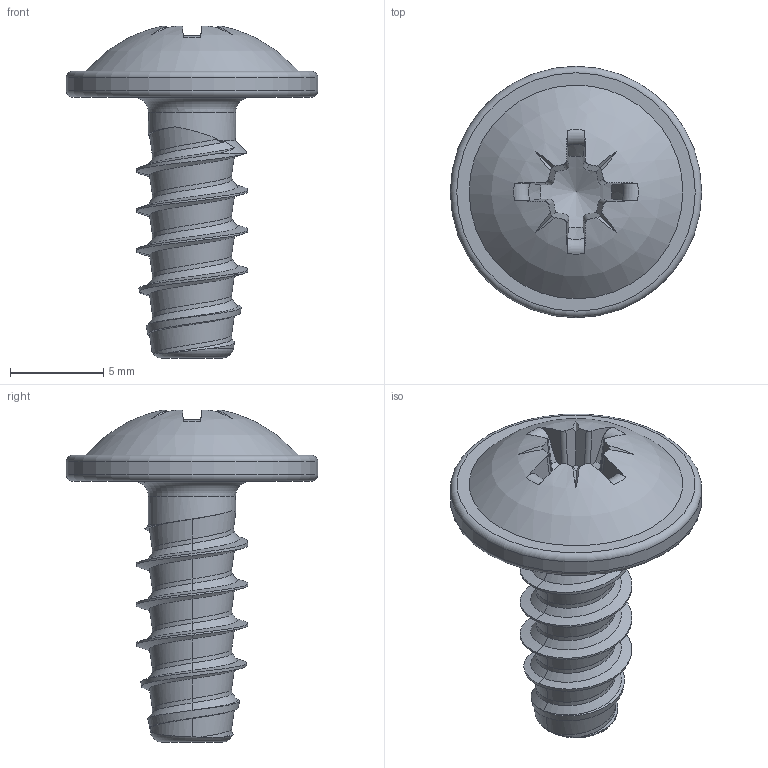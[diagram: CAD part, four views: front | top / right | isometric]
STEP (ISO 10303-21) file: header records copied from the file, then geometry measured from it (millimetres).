
FILE_DESCRIPTION(/* description */ (''),/* implementation_level */ '2;1');
FILE_NAME(/* name */ 'KN6031-STSplus-60x14-Z3.step',/* time_stamp */ '2017-10-09T17:05:01+02:00',/* author */ (''),/* organization */ (''),/* preprocessor_version */ 'ST-DEVELOPER v16',/* originating_system */ 'SIEMENS PLM Software NX 10.0',/* authorisation */ '');
FILE_SCHEMA (('AUTOMOTIVE_DESIGN { 1 0 10303 214 3 1 1 1 }'));
Length unit declared in the file: millimetre
Products named in the file (1): KN6031-STSplus-60x14-Z3
Bounding box: 13.5 x 13.5 x 17.83 mm (x, y, z)
Volume: 553 mm3; surface area: 653.6 mm2
Topology: 1 solids, 1 shells, 86 faces, 222 edges, 139 vertices
Faces by surface type: bspline 32, plane 27, cylinder 11, torus 8, cone 7, sphere 1
Full cylindrical faces by diameter (mm): 4.68 x1, 13.5 x1
Entity records: 4456 total; most frequent: CARTESIAN_POINT 2669, ORIENTED_EDGE 416, DIRECTION 266, EDGE_CURVE 208, VERTEX_POINT 134, AXIS2_PLACEMENT_3D 103, B_SPLINE_CURVE_WITH_KNOTS 100, EDGE_LOOP 95
